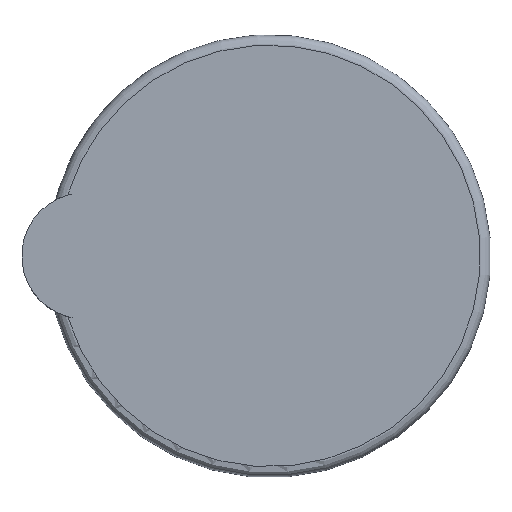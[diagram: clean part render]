
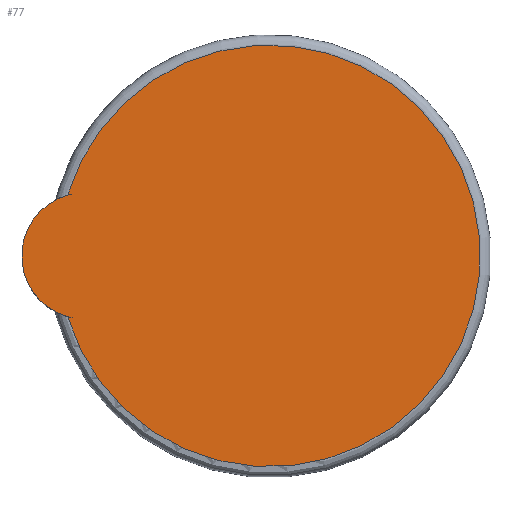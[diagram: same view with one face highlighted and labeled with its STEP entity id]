
A CAD part, top view. The second image highlights one B-rep face of the part: STEP entity #77.
In plain terms, the highlighted planar face has unit normal (0, 0, 1).
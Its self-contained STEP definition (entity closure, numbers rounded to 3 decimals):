
#77=ADVANCED_FACE('',(#160),#161,.F.);
#160=FACE_OUTER_BOUND('',#238,.T.);
#161=PLANE('',#239);
#238=EDGE_LOOP('',(#357,#358));
#239=AXIS2_PLACEMENT_3D('',#359,#360,#361);
#357=ORIENTED_EDGE('',*,*,#432,.F.);
#358=ORIENTED_EDGE('',*,*,#425,.F.);
#359=CARTESIAN_POINT('',(0.0,0.0,26.));
#360=DIRECTION('',(-0.0,0.,-1.0));
#361=DIRECTION('',(0.0,1.0,0.));
#425=EDGE_CURVE('',#489,#473,#491,.T.);
#432=EDGE_CURVE('',#473,#489,#498,.T.);
#473=VERTEX_POINT('',#539);
#489=VERTEX_POINT('',#607);
#491=CIRCLE('',#612,6.0);
#498=CIRCLE('',#619,20.);
#539=CARTESIAN_POINT('',(-19.15,5.769,26.));
#607=CARTESIAN_POINT('',(-19.15,-5.769,26.));
#612=AXIS2_PLACEMENT_3D('',#662,#663,#664);
#619=AXIS2_PLACEMENT_3D('',#674,#675,#676);
#662=CARTESIAN_POINT('',(-17.5,0.0,26.));
#663=DIRECTION('',(0.0,0.0,-1.0));
#664=DIRECTION('',(1.0,0.0,0.0));
#674=CARTESIAN_POINT('',(0.0,0.0,26.));
#675=DIRECTION('',(-0.0,0.,-1.0));
#676=DIRECTION('',(0.0,1.0,0.));
